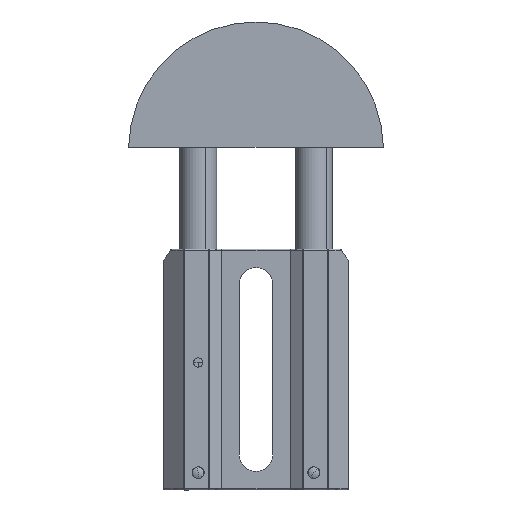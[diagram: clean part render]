
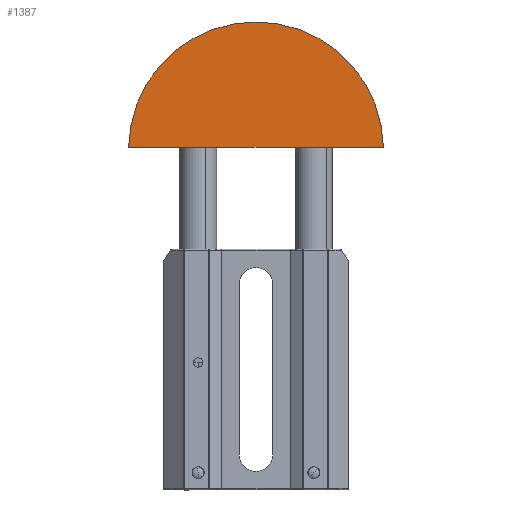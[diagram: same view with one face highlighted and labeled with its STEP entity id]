
A CAD part, top view. The second image highlights one B-rep face of the part: STEP entity #1387.
In plain terms, the highlighted planar face has unit normal (0, 0, 1).
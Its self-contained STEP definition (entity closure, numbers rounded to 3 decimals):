
#241 = CARTESIAN_POINT ( 'NONE',  ( -55., 0., 45. ) ) ;
#577 = ORIENTED_EDGE ( 'NONE', *, *, #3417, .T. ) ;
#594 = CARTESIAN_POINT ( 'NONE',  ( 0., -1.009, 45. ) ) ;
#676 = DIRECTION ( 'NONE',  ( 1., 0., 0. ) ) ;
#978 = ORIENTED_EDGE ( 'NONE', *, *, #5069, .T. ) ;
#1142 = AXIS2_PLACEMENT_3D ( 'NONE', #594, #1862, #4069 ) ;
#1277 = VERTEX_POINT ( 'NONE', #4545 ) ;
#1387 = ADVANCED_FACE ( 'NONE', ( #4208 ), #5673, .T. ) ;
#1862 = DIRECTION ( 'NONE',  ( 0., 0., 1. ) ) ;
#3037 = CARTESIAN_POINT ( 'NONE',  ( 0., -1.009, 45. ) ) ;
#3148 = AXIS2_PLACEMENT_3D ( 'NONE', #3037, #4801, #4751 ) ;
#3327 = LINE ( 'NONE', #241, #5519 ) ;
#3417 = EDGE_CURVE ( 'NONE', #5323, #1277, #4876, .T. ) ;
#3732 = CARTESIAN_POINT ( 'NONE',  ( 55., 0., 45. ) ) ;
#4069 = DIRECTION ( 'NONE',  ( 1., 0., 0. ) ) ;
#4085 = EDGE_LOOP ( 'NONE', ( #577, #978 ) ) ;
#4208 = FACE_OUTER_BOUND ( 'NONE', #4085, .T. ) ;
#4545 = CARTESIAN_POINT ( 'NONE',  ( -55., 0., 45. ) ) ;
#4751 = DIRECTION ( 'NONE',  ( 1., 0., 0. ) ) ;
#4801 = DIRECTION ( 'NONE',  ( 0., 0., 1. ) ) ;
#4876 = CIRCLE ( 'NONE', #1142, 55.009 ) ;
#5069 = EDGE_CURVE ( 'NONE', #1277, #5323, #3327, .T. ) ;
#5323 = VERTEX_POINT ( 'NONE', #3732 ) ;
#5519 = VECTOR ( 'NONE', #676, 1000. ) ;
#5673 = PLANE ( 'NONE',  #3148 ) ;
